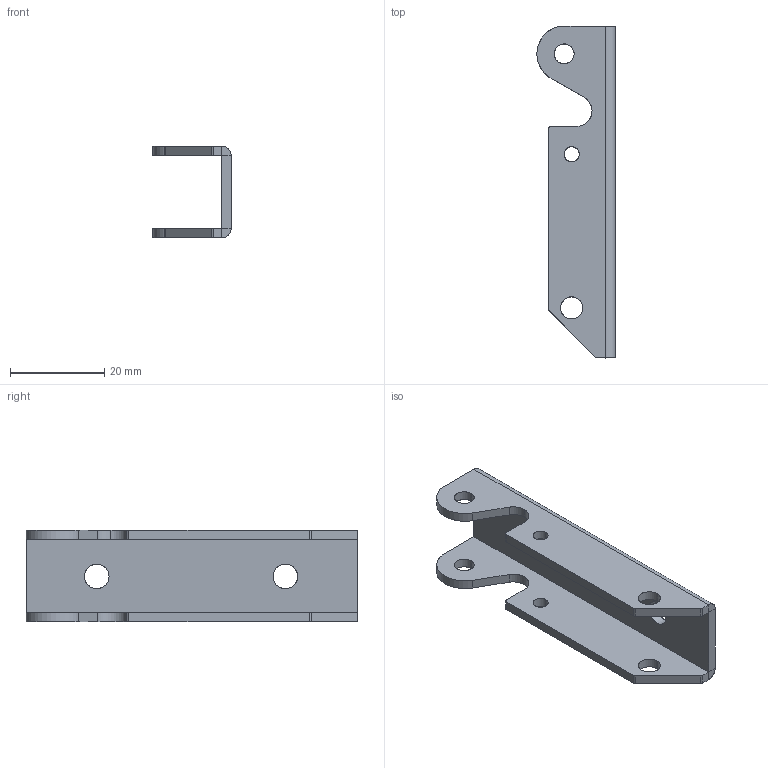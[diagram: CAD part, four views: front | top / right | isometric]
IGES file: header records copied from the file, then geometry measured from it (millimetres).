
Start section: SolidWorks IGES FILE using analytic representation for surfaces
Global section: file name: C:\Documents and Settings\lecoutey\Bureau\GO 32\GO 30.021.10.IGS; native system: SolidWorks 2004 by SolidWorks Corporation; preprocessor: Version 5.3; author: lecoutey; date: 050329.094249; units: millimetre
Bounding box: 16.6 x 70.4 x 19.5 mm (x, y, z)
Surface area: 6073.1 mm2 (no closed solid volume)
Topology: 0 solids, 0 shells, 53 faces, 912 edges, 912 vertices
Faces by surface type: revolution 29, bspline 24
